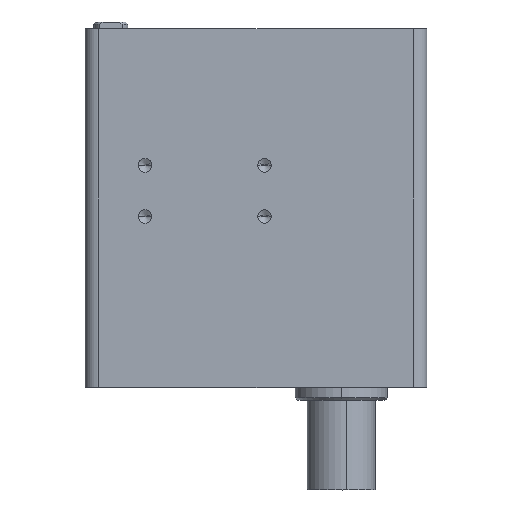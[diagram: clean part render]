
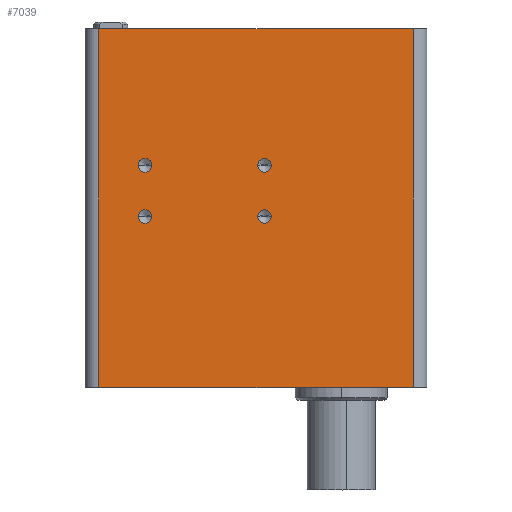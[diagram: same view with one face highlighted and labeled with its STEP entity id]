
A CAD part, top view. The second image highlights one B-rep face of the part: STEP entity #7039.
In plain terms, the highlighted planar face has unit normal (0, 0, 1).
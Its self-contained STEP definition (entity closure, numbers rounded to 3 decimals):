
#121 = VECTOR ( 'NONE', #7815, 1000. ) ;
#168 = ORIENTED_EDGE ( 'NONE', *, *, #2721, .F. ) ;
#239 = EDGE_LOOP ( 'NONE', ( #3057, #8441, #6958, #6593 ) ) ;
#251 = VERTEX_POINT ( 'NONE', #3228 ) ;
#335 = AXIS2_PLACEMENT_3D ( 'NONE', #7604, #8310, #1986 ) ;
#354 = DIRECTION ( 'NONE',  ( 1., 0., 0. ) ) ;
#357 = AXIS2_PLACEMENT_3D ( 'NONE', #6175, #2486, #354 ) ;
#398 = CARTESIAN_POINT ( 'NONE',  ( 10.151, -11.801, 12.992 ) ) ;
#494 = VERTEX_POINT ( 'NONE', #2332 ) ;
#573 = EDGE_CURVE ( 'NONE', #494, #8347, #1085, .T. ) ;
#730 = AXIS2_PLACEMENT_3D ( 'NONE', #8738, #8094, #6092 ) ;
#750 = EDGE_LOOP ( 'NONE', ( #7054, #2167 ) ) ;
#909 = VERTEX_POINT ( 'NONE', #9134 ) ;
#990 = VERTEX_POINT ( 'NONE', #7827 ) ;
#1001 = CIRCLE ( 'NONE', #3984, 0.8 ) ;
#1085 = LINE ( 'NONE', #398, #7177 ) ;
#1109 = EDGE_CURVE ( 'NONE', #990, #3513, #6556, .T. ) ;
#1277 = CIRCLE ( 'NONE', #8557, 0.8 ) ;
#1488 = ORIENTED_EDGE ( 'NONE', *, *, #2685, .F. ) ;
#1534 = DIRECTION ( 'NONE',  ( -1., 0., 0. ) ) ;
#1744 = CARTESIAN_POINT ( 'NONE',  ( -8.049, 3.999, 12.992 ) ) ;
#1748 = FACE_OUTER_BOUND ( 'NONE', #239, .T. ) ;
#1755 = CARTESIAN_POINT ( 'NONE',  ( -20.449, 3.999, 12.992 ) ) ;
#1968 = DIRECTION ( 'NONE',  ( 0., 0., 1. ) ) ;
#1986 = DIRECTION ( 'NONE',  ( -1., 0., 0. ) ) ;
#2075 = DIRECTION ( 'NONE',  ( -1., 0., 0. ) ) ;
#2115 = DIRECTION ( 'NONE',  ( 0., 0., 1. ) ) ;
#2152 = EDGE_LOOP ( 'NONE', ( #1488, #7918 ) ) ;
#2167 = ORIENTED_EDGE ( 'NONE', *, *, #7973, .F. ) ;
#2282 = EDGE_CURVE ( 'NONE', #4784, #4888, #5651, .T. ) ;
#2315 = CARTESIAN_POINT ( 'NONE',  ( -7.249, 3.999, 12.992 ) ) ;
#2332 = CARTESIAN_POINT ( 'NONE',  ( 10.151, -16.001, 12.992 ) ) ;
#2437 = FACE_BOUND ( 'NONE', #4866, .T. ) ;
#2459 = DIRECTION ( 'NONE',  ( 0., -1., 0. ) ) ;
#2486 = DIRECTION ( 'NONE',  ( 0., 0., -1. ) ) ;
#2504 = LINE ( 'NONE', #7495, #9114 ) ;
#2557 = ORIENTED_EDGE ( 'NONE', *, *, #2282, .F. ) ;
#2685 = EDGE_CURVE ( 'NONE', #3513, #990, #3678, .T. ) ;
#2721 = EDGE_CURVE ( 'NONE', #909, #251, #1001, .T. ) ;
#2819 = AXIS2_PLACEMENT_3D ( 'NONE', #2315, #5154, #6050 ) ;
#2826 = CARTESIAN_POINT ( 'NONE',  ( -11.249, 25.999, 12.992 ) ) ;
#2862 = EDGE_CURVE ( 'NONE', #8347, #6981, #6459, .T. ) ;
#3045 = CARTESIAN_POINT ( 'NONE',  ( -21.249, 9.999, 12.992 ) ) ;
#3057 = ORIENTED_EDGE ( 'NONE', *, *, #573, .T. ) ;
#3200 = CARTESIAN_POINT ( 'NONE',  ( -26.649, 12.699, 12.992 ) ) ;
#3218 = DIRECTION ( 'NONE',  ( 0., 1., 0. ) ) ;
#3228 = CARTESIAN_POINT ( 'NONE',  ( -6.449, 9.999, 12.992 ) ) ;
#3339 = CARTESIAN_POINT ( 'NONE',  ( 10.151, 25.999, 12.992 ) ) ;
#3409 = ORIENTED_EDGE ( 'NONE', *, *, #4294, .F. ) ;
#3478 = DIRECTION ( 'NONE',  ( -1., 0., 0. ) ) ;
#3513 = VERTEX_POINT ( 'NONE', #4245 ) ;
#3678 = CIRCLE ( 'NONE', #730, 0.8 ) ;
#3872 = FACE_BOUND ( 'NONE', #2152, .T. ) ;
#3933 = EDGE_CURVE ( 'NONE', #6981, #7255, #6748, .T. ) ;
#3984 = AXIS2_PLACEMENT_3D ( 'NONE', #6279, #1968, #3478 ) ;
#4245 = CARTESIAN_POINT ( 'NONE',  ( -22.049, 9.999, 12.992 ) ) ;
#4294 = EDGE_CURVE ( 'NONE', #251, #909, #1277, .T. ) ;
#4386 = VERTEX_POINT ( 'NONE', #1755 ) ;
#4401 = DIRECTION ( 'NONE',  ( 0., 0., 1. ) ) ;
#4488 = AXIS2_PLACEMENT_3D ( 'NONE', #4749, #7030, #6987 ) ;
#4627 = PLANE ( 'NONE',  #357 ) ;
#4749 = CARTESIAN_POINT ( 'NONE',  ( -21.249, 3.999, 12.992 ) ) ;
#4784 = VERTEX_POINT ( 'NONE', #1744 ) ;
#4799 = CIRCLE ( 'NONE', #4488, 0.8 ) ;
#4866 = EDGE_LOOP ( 'NONE', ( #2557, #7852 ) ) ;
#4888 = VERTEX_POINT ( 'NONE', #6668 ) ;
#5154 = DIRECTION ( 'NONE',  ( 0., 0., 1. ) ) ;
#5193 = DIRECTION ( 'NONE',  ( 0., 0., 1. ) ) ;
#5651 = CIRCLE ( 'NONE', #2819, 0.8 ) ;
#5748 = CIRCLE ( 'NONE', #6952, 0.8 ) ;
#5940 = CARTESIAN_POINT ( 'NONE',  ( -22.049, 3.999, 12.992 ) ) ;
#6050 = DIRECTION ( 'NONE',  ( -1., 0., 0. ) ) ;
#6062 = EDGE_CURVE ( 'NONE', #8269, #4386, #5748, .T. ) ;
#6092 = DIRECTION ( 'NONE',  ( -1., 0., 0. ) ) ;
#6175 = CARTESIAN_POINT ( 'NONE',  ( 11.751, -11.801, 12.992 ) ) ;
#6279 = CARTESIAN_POINT ( 'NONE',  ( -7.249, 9.999, 12.992 ) ) ;
#6459 = LINE ( 'NONE', #2826, #121 ) ;
#6502 = CARTESIAN_POINT ( 'NONE',  ( -7.249, 9.999, 12.992 ) ) ;
#6556 = CIRCLE ( 'NONE', #6899, 0.8 ) ;
#6593 = ORIENTED_EDGE ( 'NONE', *, *, #7673, .F. ) ;
#6668 = CARTESIAN_POINT ( 'NONE',  ( -6.449, 3.999, 12.992 ) ) ;
#6748 = LINE ( 'NONE', #3200, #8820 ) ;
#6798 = DIRECTION ( 'NONE',  ( -1., 0., 0. ) ) ;
#6876 = FACE_BOUND ( 'NONE', #8974, .T. ) ;
#6899 = AXIS2_PLACEMENT_3D ( 'NONE', #3045, #5193, #1534 ) ;
#6952 = AXIS2_PLACEMENT_3D ( 'NONE', #8413, #2115, #2075 ) ;
#6958 = ORIENTED_EDGE ( 'NONE', *, *, #3933, .T. ) ;
#6964 = CARTESIAN_POINT ( 'NONE',  ( -26.649, -16.001, 12.992 ) ) ;
#6981 = VERTEX_POINT ( 'NONE', #7278 ) ;
#6987 = DIRECTION ( 'NONE',  ( -1., 0., 0. ) ) ;
#7030 = DIRECTION ( 'NONE',  ( 0., 0., 1. ) ) ;
#7039 = ADVANCED_FACE ( 'NONE', ( #6876, #2437, #7417, #3872, #1748 ), #4627, .F. ) ;
#7054 = ORIENTED_EDGE ( 'NONE', *, *, #6062, .F. ) ;
#7177 = VECTOR ( 'NONE', #3218, 1000. ) ;
#7255 = VERTEX_POINT ( 'NONE', #6964 ) ;
#7278 = CARTESIAN_POINT ( 'NONE',  ( -26.649, 25.999, 12.992 ) ) ;
#7417 = FACE_BOUND ( 'NONE', #750, .T. ) ;
#7495 = CARTESIAN_POINT ( 'NONE',  ( -26.649, -16.001, 12.992 ) ) ;
#7597 = EDGE_CURVE ( 'NONE', #4888, #4784, #8967, .T. ) ;
#7604 = CARTESIAN_POINT ( 'NONE',  ( -7.249, 3.999, 12.992 ) ) ;
#7673 = EDGE_CURVE ( 'NONE', #494, #7255, #2504, .T. ) ;
#7815 = DIRECTION ( 'NONE',  ( -1., 0., 0. ) ) ;
#7827 = CARTESIAN_POINT ( 'NONE',  ( -20.449, 9.999, 12.992 ) ) ;
#7852 = ORIENTED_EDGE ( 'NONE', *, *, #7597, .F. ) ;
#7918 = ORIENTED_EDGE ( 'NONE', *, *, #1109, .F. ) ;
#7973 = EDGE_CURVE ( 'NONE', #4386, #8269, #4799, .T. ) ;
#8094 = DIRECTION ( 'NONE',  ( 0., 0., 1. ) ) ;
#8269 = VERTEX_POINT ( 'NONE', #5940 ) ;
#8310 = DIRECTION ( 'NONE',  ( 0., 0., 1. ) ) ;
#8347 = VERTEX_POINT ( 'NONE', #3339 ) ;
#8413 = CARTESIAN_POINT ( 'NONE',  ( -21.249, 3.999, 12.992 ) ) ;
#8441 = ORIENTED_EDGE ( 'NONE', *, *, #2862, .T. ) ;
#8557 = AXIS2_PLACEMENT_3D ( 'NONE', #6502, #4401, #8567 ) ;
#8567 = DIRECTION ( 'NONE',  ( -1., 0., 0. ) ) ;
#8738 = CARTESIAN_POINT ( 'NONE',  ( -21.249, 9.999, 12.992 ) ) ;
#8820 = VECTOR ( 'NONE', #2459, 1000. ) ;
#8967 = CIRCLE ( 'NONE', #335, 0.8 ) ;
#8974 = EDGE_LOOP ( 'NONE', ( #168, #3409 ) ) ;
#9114 = VECTOR ( 'NONE', #6798, 1000. ) ;
#9134 = CARTESIAN_POINT ( 'NONE',  ( -8.049, 9.999, 12.992 ) ) ;
